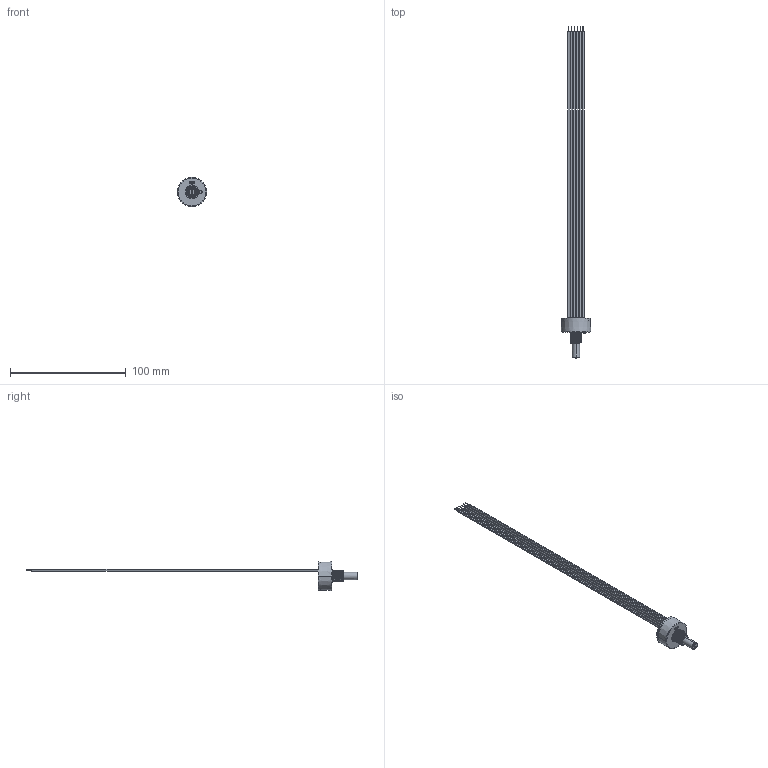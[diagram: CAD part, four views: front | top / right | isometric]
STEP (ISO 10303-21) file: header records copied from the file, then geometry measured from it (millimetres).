
FILE_DESCRIPTION (( 'STEP AP214' ), '1' );
FILE_NAME ('286CC3DAABA1.STEP', '2022-12-01T05:17:40', ( '' ), ( '' ), 'SwSTEP 2.0', 'SolidWorks 2021', '' );
FILE_SCHEMA (( 'AUTOMOTIVE_DESIGN' ));
Length unit declared in the file: millimetre
Products named in the file (16): 468-82-T38_468-82-T38-R; 468-82-T38_468-82-T38-B; 286-02-001-01_REV C; 468-82-T38_468-82-T38-Y; 286-04-001_REV B; 286-02-001_REV A; 285-48-002_0; 286-24-002; 468-82-T38_468-82-T38-U; 468-82-T38_468-82-T38-N; Epoxy Sealing_10 trun dual output; 286-41-003; 286-57-001; 468-82-T38_468-82-T38-W; 286CC3DAABA1; 286-36-001_REV A
Assembly tree (15 placements, depth 3):
  286CC3DAABA1
    286-02-001_REV A
      286-02-001-01_REV C
      286-04-001_REV B
    286-24-002
    285-48-002_0
    Epoxy Sealing_10 trun dual output
    286-36-001_REV A
    286-57-001
    286-41-003
    468-82-T38_468-82-T38-B
    468-82-T38_468-82-T38-U
    468-82-T38_468-82-T38-R
    468-82-T38_468-82-T38-Y
    468-82-T38_468-82-T38-W
    468-82-T38_468-82-T38-N
Bounding box: 25.2 x 287.35 x 25.2 mm (x, y, z)
Volume: 10456.7 mm3; surface area: 14876.4 mm2
Topology: 14 solids, 14 shells, 434 faces, 1045 edges, 674 vertices
Faces by surface type: cylinder 227, plane 141, cone 37, torus 26, bspline 3
Entity records: 16948 total; most frequent: CARTESIAN_POINT 5863, DIRECTION 2334, ORIENTED_EDGE 2090, EDGE_CURVE 1045, AXIS2_PLACEMENT_3D 930, VERTEX_POINT 674, EDGE_LOOP 493, CIRCLE 480
